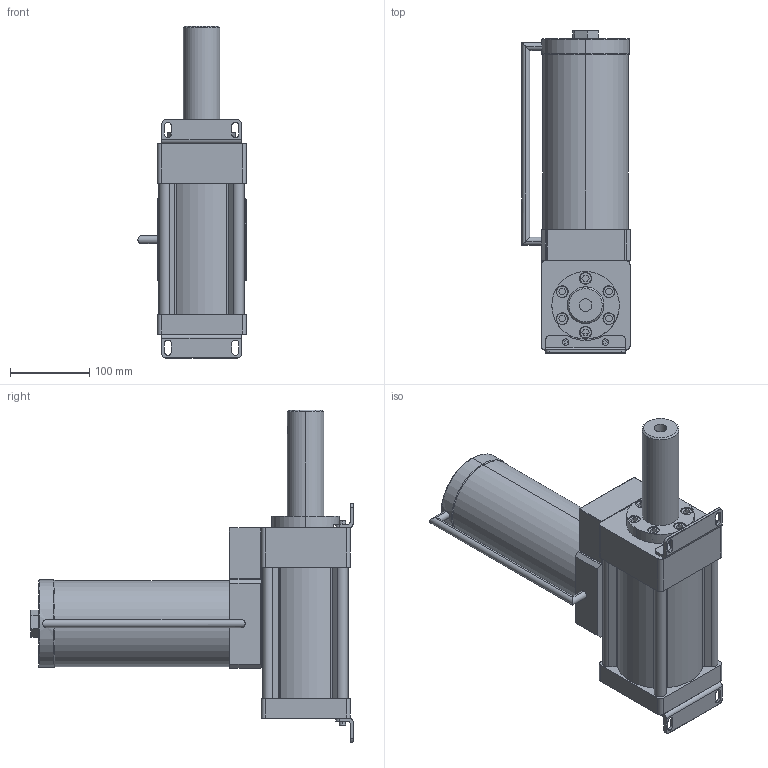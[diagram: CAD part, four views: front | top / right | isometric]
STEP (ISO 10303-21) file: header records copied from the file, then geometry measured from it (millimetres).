
FILE_DESCRIPTION (( 'STEP AP203' ), '1' );
FILE_NAME ('MHB-1011N70+YT63YT80YT100YT125.STEP', '2016-03-19T03:48:07', ( 'WIN' ), ( '' ), 'SwSTEP 2.0', 'SolidWorks 2014', '' );
FILE_SCHEMA (( 'CONFIG_CONTROL_DESIGN' ));
Length unit declared in the file: millimetre
Products named in the file (1): MHB-1011N70+YT63YT80YT100YT125
Bounding box: 136.08 x 406 x 418 mm (x, y, z)
Volume: 2854010.1 mm3; surface area: 504346.9 mm2
Topology: 1 solids, 7 shells, 389 faces, 955 edges, 620 vertices
Faces by surface type: plane 248, cylinder 135, torus 4, cone 2
Entity records: 11731 total; most frequent: CARTESIAN_POINT 2271, DIRECTION 1976, ORIENTED_EDGE 1910, EDGE_CURVE 955, AXIS2_PLACEMENT_3D 665, LINE 646, VECTOR 646, VERTEX_POINT 620
